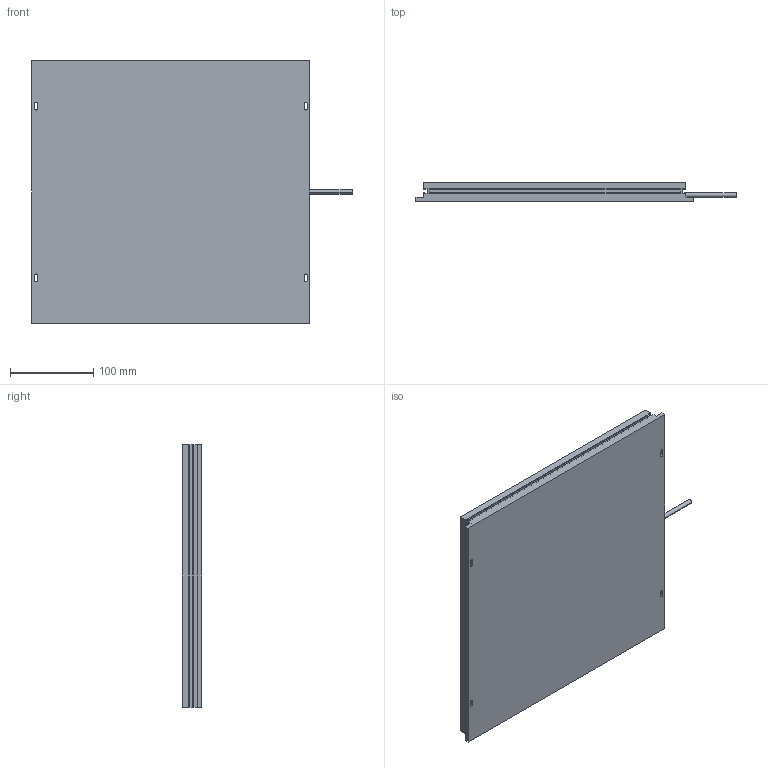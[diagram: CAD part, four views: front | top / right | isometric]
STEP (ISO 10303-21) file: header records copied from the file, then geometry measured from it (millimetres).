
FILE_DESCRIPTION((''),'2;1');
FILE_NAME('P-HFL2-300-300-WHK','2021-12-25T',('win7'),(''),'PRO/ENGINEER BY PARAMETRIC TECHNOLOGY CORPORATION, 2010100','PRO/ENGINEER BY PARAMETRIC TECHNOLOGY CORPORATION, 2010100','');
FILE_SCHEMA(('CONFIG_CONTROL_DESIGN'));
Length unit declared in the file: millimetre
Products named in the file (1): P-HFL2-300-300-WHK
Bounding box: 383.5 x 23 x 314 mm (x, y, z)
Volume: 2182735 mm3; surface area: 256617.7 mm2
Topology: 1 solids, 1 shells, 84 faces, 235 edges, 156 vertices
Faces by surface type: plane 74, cylinder 10
Entity records: 2717 total; most frequent: CARTESIAN_POINT 475, ORIENTED_EDGE 470, DIRECTION 423, EDGE_CURVE 235, VECTOR 215, LINE 215, VERTEX_POINT 156, AXIS2_PLACEMENT_3D 104
